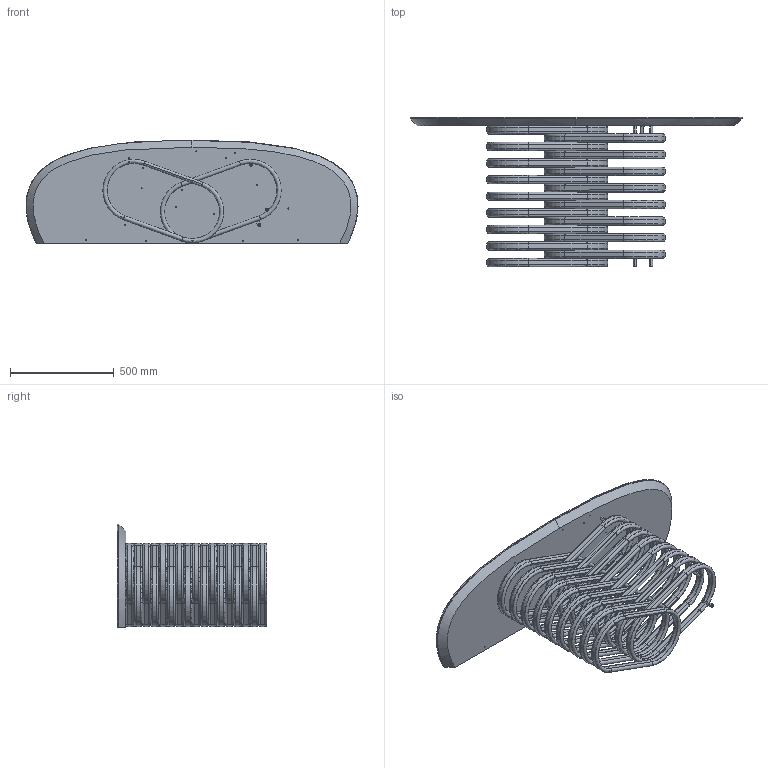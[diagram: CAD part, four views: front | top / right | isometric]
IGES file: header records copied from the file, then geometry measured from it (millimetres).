
Start section: SolidWorks IGES file using analytic representation for surfaces
Global section: file name: Y:\eforma\TECNICO\SOLIDWORKS\E-FORMA\3-CONSOLE\ROTOLO CONSOLE\02 parts\RO60C.IGS; native system: SolidWorks 2022; preprocessor: SolidWorks 2022; author: eforma.tech; date: 240806.120214; units: millimetre
Bounding box: 1599.92 x 721 x 500 mm (x, y, z)
Volume: 32969647.5 mm3; surface area: 7877246.6 mm2
Topology: 75 solids, 75 shells, 872 faces, 2119 edges, 1373 vertices
Faces by surface type: revolution 566, plane 300, bspline 6
